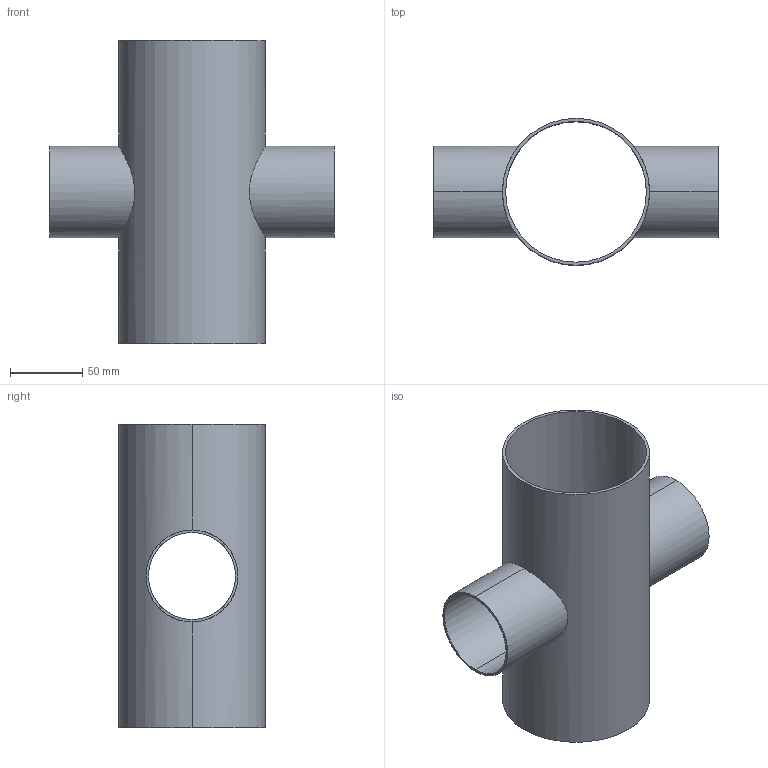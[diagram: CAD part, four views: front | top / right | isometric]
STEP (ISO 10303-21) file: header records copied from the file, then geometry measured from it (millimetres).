
FILE_DESCRIPTION (( 'STEP AP214' ), '1' );
FILE_NAME ('TE9RWWWW6L4.0x2.5-...STEP', '2016-05-22T04:47:58', ( 'eran' ), ( '' ), 'SwSTEP 2.0', 'SolidWorks 2016', '' );
FILE_SCHEMA (( 'AUTOMOTIVE_DESIGN' ));
Length unit declared in the file: millimetre
Products named in the file (1): TE9RWWWW6L4.0x2.5-..
Bounding box: 196.85 x 101.6 x 209.55 mm (x, y, z)
Volume: 159264.9 mm3; surface area: 162115.3 mm2
Topology: 1 solids, 1 shells, 16 faces, 40 edges, 24 vertices
Faces by surface type: cylinder 12, plane 4
Entity records: 986 total; most frequent: CARTESIAN_POINT 561, DIRECTION 82, ORIENTED_EDGE 80, EDGE_CURVE 40, AXIS2_PLACEMENT_3D 33, VERTEX_POINT 24, EDGE_LOOP 20, LINE 16
